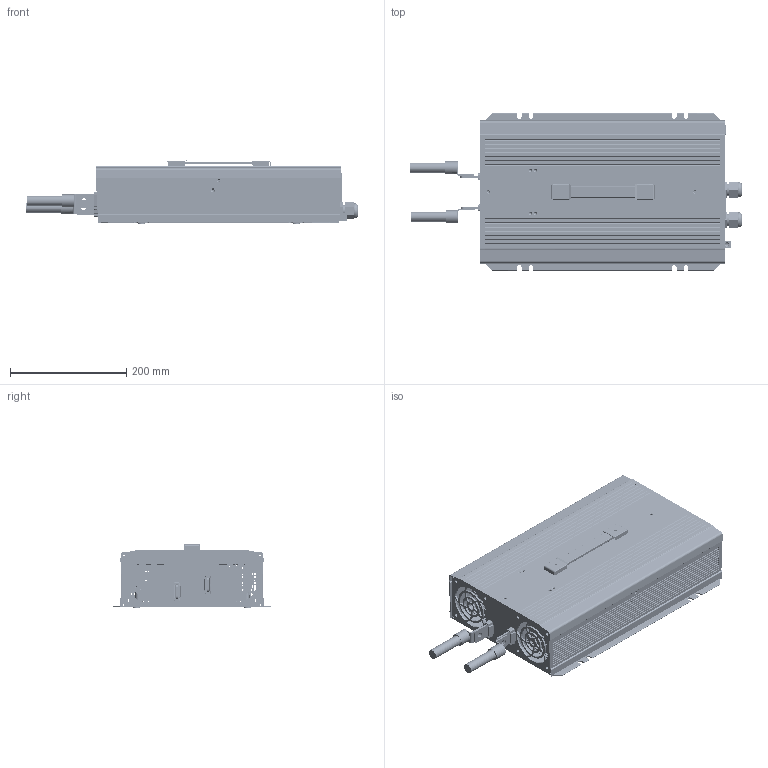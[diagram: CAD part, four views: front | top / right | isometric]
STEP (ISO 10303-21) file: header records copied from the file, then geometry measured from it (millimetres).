
FILE_DESCRIPTION(('Creo Elements/Direct Modeling STEP Export'),'2;1');
FILE_NAME('NTS-3200-UK.stp','2022-03-28T18:38:00',(''),(''),'PTC Creo Elements/Direct Modeling STEP processor for AP214 (Solid Model)','PTC Creo Elements/Direct Modeling 19.0E 27-Jun-2016 (C) Parametric Technology GmbH','');
FILE_SCHEMA(('AUTOMOTIVE_DESIGN { 1 0 10303 214 1 1 1 1 }'));
Length unit declared in the file: millimetre
Products named in the file (225): 零件9; 零件8; 零件7; 零件6; 零件5; 零件4; 零件3; 零件2; 零件12; 零件11; 零件10; 零件1; 电容; 万国插片; open_shell.1; guwei1.1; guwei1; _S_4_X2_0192_X0__S__S_6_S___S_U; _S_4_X2_0192_X0__S_; TO220.21; TO220.9; TO220.8; TO220.7; TO220.6; TO220.5; TO220.4; TO220.3; TO220.20; TO220.2; TO220.19; TO220.18; TO220.17; TO220.16; TO220.15; TO220.14; TO220.13; TO220.12; TO220.11; TO220.10; TO220.1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
Assembly tree (128 placements, depth 2):
  零件9
  零件8
  零件7
  零件6
  零件5
    零件5
Bounding box: 570.16 x 270 x 108.65 mm (x, y, z)
Volume: 2358108.5 mm3; surface area: 2029702.5 mm2
Topology: 148 solids, 151 shells, 7619 faces, 20726 edges, 13677 vertices
Faces by surface type: plane 4615, cylinder 2561, cone 247, torus 137, bspline 48, sphere 10, extrusion 1
Entity records: 610419 total; most frequent: CARTESIAN_POINT 456214, ORIENTED_EDGE 30689, DIRECTION 27971, EDGE_CURVE 15347, VECTOR 10961, LINE 10960, VERTEX_POINT 10100, AXIS2_PLACEMENT_3D 8505
